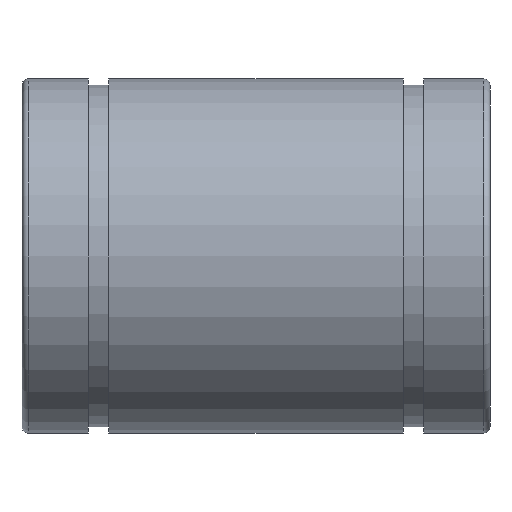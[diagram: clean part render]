
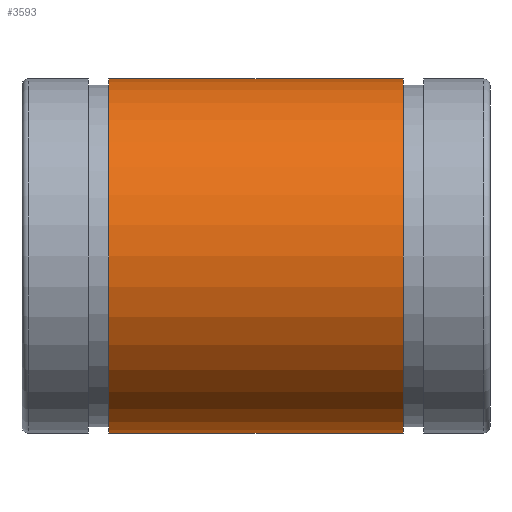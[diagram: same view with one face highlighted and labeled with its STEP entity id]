
A CAD part, front view. The second image highlights one B-rep face of the part: STEP entity #3593.
In plain terms, the highlighted cylindrical face has radius 14 mm (diameter 28 mm), a full revolution.
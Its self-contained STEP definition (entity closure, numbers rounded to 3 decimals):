
#23=CYLINDRICAL_SURFACE('',#3742,14.);
#38=CIRCLE('',#3743,14.);
#39=CIRCLE('',#3744,14.);
#67=FACE_BOUND('',#521,.T.);
#310=FACE_OUTER_BOUND('',#520,.T.);
#520=EDGE_LOOP('',(#3206));
#521=EDGE_LOOP('',(#3207));
#1732=VERTEX_POINT('',#6293);
#1733=VERTEX_POINT('',#6295);
#2230=EDGE_CURVE('',#1732,#1732,#38,.T.);
#2231=EDGE_CURVE('',#1733,#1733,#39,.T.);
#3206=ORIENTED_EDGE('',*,*,#2230,.F.);
#3207=ORIENTED_EDGE('',*,*,#2231,.T.);
#3593=ADVANCED_FACE('',(#310,#67),#23,.T.);
#3742=AXIS2_PLACEMENT_3D('',#6292,#4412,#4413);
#3743=AXIS2_PLACEMENT_3D('',#6294,#4414,#4415);
#3744=AXIS2_PLACEMENT_3D('',#6296,#4416,#4417);
#4412=DIRECTION('center_axis',(1.,0.,0.));
#4413=DIRECTION('ref_axis',(0.,1.,0.));
#4414=DIRECTION('center_axis',(1.,0.,0.));
#4415=DIRECTION('ref_axis',(0.,1.,0.));
#4416=DIRECTION('center_axis',(1.,0.,0.));
#4417=DIRECTION('ref_axis',(0.,1.,0.));
#6292=CARTESIAN_POINT('Origin',(0.,0.,0.));
#6293=CARTESIAN_POINT('',(11.65,-14.,0.));
#6294=CARTESIAN_POINT('Origin',(11.65,0.,0.));
#6295=CARTESIAN_POINT('',(-11.65,-14.,0.));
#6296=CARTESIAN_POINT('Origin',(-11.65,0.,0.));
